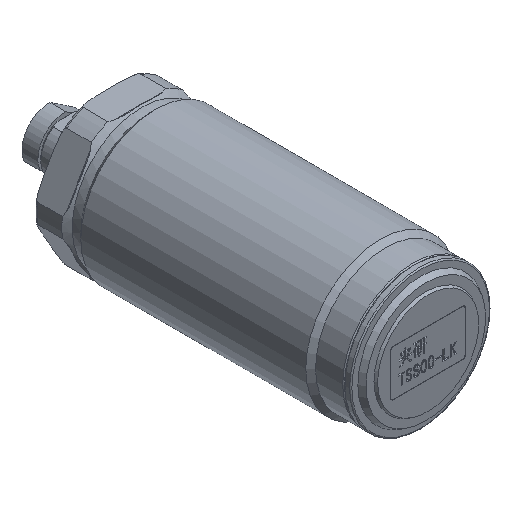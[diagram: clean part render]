
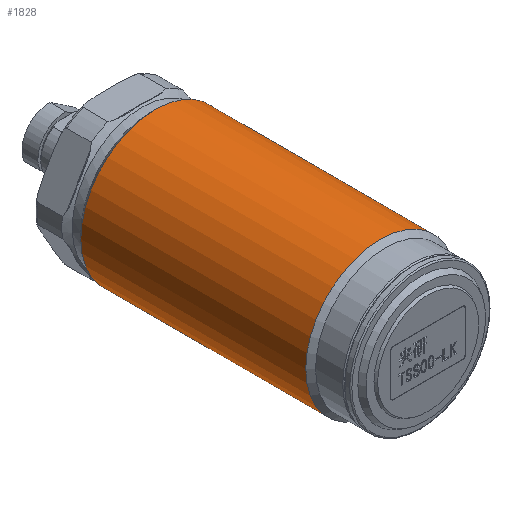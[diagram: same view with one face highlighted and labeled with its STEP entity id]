
A CAD part, isometric view. The second image highlights one B-rep face of the part: STEP entity #1828.
In plain terms, the highlighted cylindrical face has radius 13 mm (diameter 26 mm), a full revolution.
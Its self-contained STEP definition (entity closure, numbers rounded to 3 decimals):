
#1790=CYLINDRICAL_SURFACE('',#5806,13.);
#1828=ADVANCED_FACE('',(#2229,#2230),#1790,.T.);
#2229=FACE_BOUND('',#2330,.T.);
#2230=FACE_BOUND('',#2331,.T.);
#2330=EDGE_LOOP('',(#2729));
#2331=EDGE_LOOP('',(#2730));
#2637=CIRCLE('',#5803,13.);
#2638=CIRCLE('',#5805,13.);
#2729=ORIENTED_EDGE('',*,*,#4383,.F.);
#2730=ORIENTED_EDGE('',*,*,#4384,.T.);
#3958=VERTEX_POINT('',#7082);
#3959=VERTEX_POINT('',#7085);
#4383=EDGE_CURVE('',#3958,#3958,#2637,.T.);
#4384=EDGE_CURVE('',#3959,#3959,#2638,.T.);
#5803=AXIS2_PLACEMENT_3D('',#7081,#6108,#6109);
#5805=AXIS2_PLACEMENT_3D('',#7084,#6112,#6113);
#5806=AXIS2_PLACEMENT_3D('',#7086,#6114,#6115);
#6108=DIRECTION('',(0.,-1.,0.));
#6109=DIRECTION('',(0.,0.,-1.));
#6112=DIRECTION('',(0.,-1.,0.));
#6113=DIRECTION('',(0.,0.,-1.));
#6114=DIRECTION('',(0.,-1.,0.));
#6115=DIRECTION('',(0.,0.,-1.));
#7081=CARTESIAN_POINT('',(-1.606,8.25,0.));
#7082=CARTESIAN_POINT('',(-1.606,8.25,-13.));
#7084=CARTESIAN_POINT('',(-1.606,47.3,0.));
#7085=CARTESIAN_POINT('',(-1.606,47.3,-13.));
#7086=CARTESIAN_POINT('',(-1.606,-13.833,0.));
